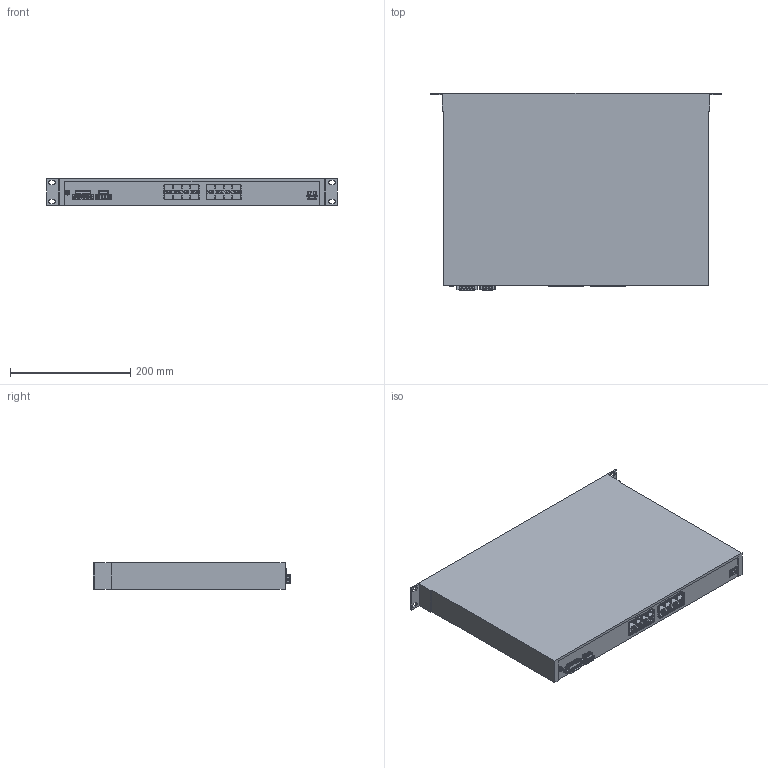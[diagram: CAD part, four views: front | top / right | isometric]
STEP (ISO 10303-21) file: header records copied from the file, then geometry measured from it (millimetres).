
FILE_DESCRIPTION(('TFLEX Exchange Step'),'2;1');
FILE_NAME('70000010_ STEZ4800-16GSFP-L2.stp', '2025-09-02T08:53:00+03:00',('YLedovskikh'),('Unknown organisation'),'TFLEX Exchange 2023.2','T-FLEX CAD','Unknown authorisation');
FILE_SCHEMA( ('AUTOMOTIVE_DESIGN { 1 0 10303 214 1 1 1 1 }') );
Length unit declared in the file: millimetre
Products named in the file (1): тело:1
Bounding box: 482.6 x 328.5 x 44 mm (x, y, z)
Volume: 5982670.3 mm3; surface area: 444903.2 mm2
Topology: 1 solids, 27 shells, 3440 faces, 9257 edges, 6140 vertices
Faces by surface type: plane 2266, cylinder 854, bspline 160, sphere 132, extrusion 16, cone 8, torus 4
Full cylindrical faces by diameter (mm): 1 x8, 1.5 x8, 1.53 x8, 1.6 x2, 1.8 x4, 2.5 x4, 2.6 x4, 3 x76, 3.1 x60, 3.2 x1, 3.25 x2, 3.8 x4, 3.821 x8, 3.9 x4, 4 x10, 4.4 x1, 5.2 x3, 6.8 x1
Entity records: 110112 total; most frequent: CARTESIAN_POINT 21624, ORIENTED_EDGE 18274, DIRECTION 17461, EDGE_CURVE 9137, VECTOR 6363, LINE 6347, VERTEX_POINT 6140, AXIS2_PLACEMENT_3D 5549
